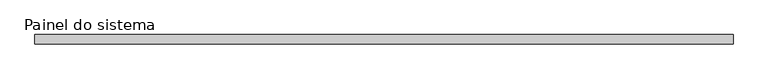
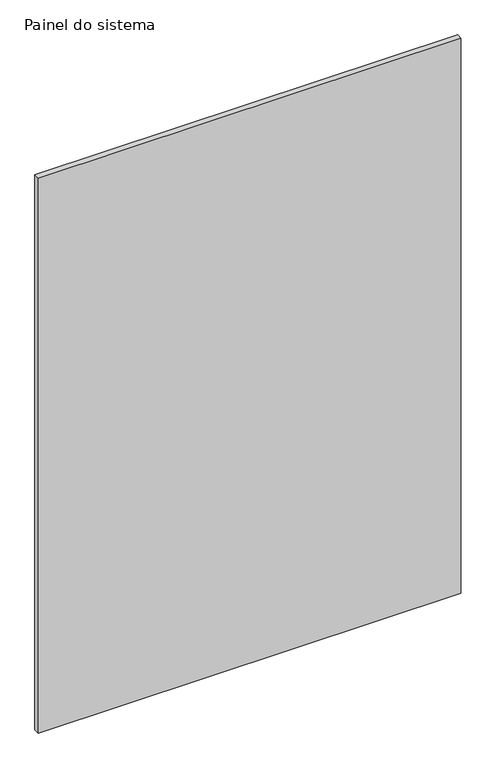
"""IFC4 building model written with IfcOpenShell, lengths in millimetres: plate geometry, Painel do sistema : Envidraçado."""

from ifc_helpers import new_model, si_unit, origin, origin_with_axes, place, context, project, spatial, polyline, outline, extrude, source, transform, mapped, element, save


def painel_do_sistema_7d7a76ee(model_context):
    return source(origin(), model_context, "Body", "SweptSolid", [
        extrude(outline(polyline([(735.0000002, -10.0), (-735.0000002, -10.0), (-735.0000002, 10.0), (735.0000002, 10.0), (735.0000002, -10.0)])), origin_with_axes(), (0.0, 0.0, 1.0), 2040.0),
    ])


if __name__ == "__main__":
    model = new_model("IFC4")
    model_context = context("Model", 3, world=origin())
    ifc_project = project(units=[si_unit("LENGTHUNIT", "METRE", prefix="MILLI")], contexts=[model_context])
    site = spatial("IfcSite", under=ifc_project)
    building = spatial("IfcBuilding", under=site)
    placement = place(None, origin())
    painel_do_sistema_shape = painel_do_sistema_7d7a76ee(model_context)
    element("IfcPlate", 1, ObjectType="Painel do sistema : Envidraçado", at=placement, inside=building, context=model_context, shape_type="MappedRepresentation", body=[
        mapped(painel_do_sistema_shape, transform((0.0, 0.0, 0.0), x_axis=(1.0, 0.0, 0.0), y_axis=(0.0, 1.0, 0.0), z_axis=(0.0, 0.0, 1.0))),
    ])
    save(model, "model.ifc")
